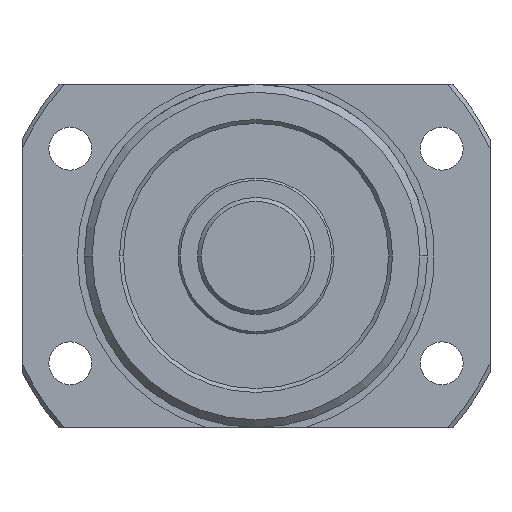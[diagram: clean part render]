
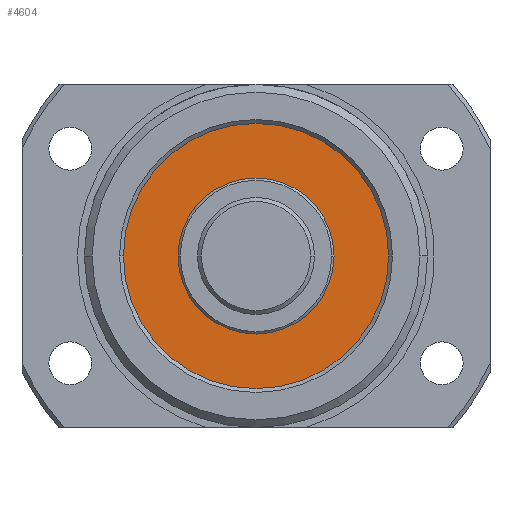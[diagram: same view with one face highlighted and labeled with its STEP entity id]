
A CAD part, left-side view. The second image highlights one B-rep face of the part: STEP entity #4604.
In plain terms, the highlighted planar face has unit normal (-1, 0, 0).
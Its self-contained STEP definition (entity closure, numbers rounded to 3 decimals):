
#139 = DIRECTION ( 'NONE',  ( 0., -1., 0. ) ) ;
#140 = DIRECTION ( 'NONE',  ( -1., 0., 0. ) ) ;
#146 = CARTESIAN_POINT ( 'NONE',  ( -40.5, 0., 0. ) ) ;
#555 = EDGE_CURVE ( 'NONE', #4042, #4039, #2964, .T. ) ;
#686 = EDGE_CURVE ( 'NONE', #4026, #5995, #5783, .T. ) ;
#1272 = CARTESIAN_POINT ( 'NONE',  ( -40.5, -17., 0. ) ) ;
#1291 = CARTESIAN_POINT ( 'NONE',  ( -40.5, 0., 10. ) ) ;
#1294 = CARTESIAN_POINT ( 'NONE',  ( -40.5, 0., -10. ) ) ;
#2138 = EDGE_CURVE ( 'NONE', #4039, #4042, #5813, .T. ) ;
#2199 = EDGE_CURVE ( 'NONE', #5995, #4026, #5903, .T. ) ;
#2332 = AXIS2_PLACEMENT_3D ( 'NONE', #146, #140, #139 ) ;
#2804 = ORIENTED_EDGE ( 'NONE', *, *, #555, .F. ) ;
#2805 = ORIENTED_EDGE ( 'NONE', *, *, #2138, .F. ) ;
#2806 = ORIENTED_EDGE ( 'NONE', *, *, #686, .T. ) ;
#2807 = ORIENTED_EDGE ( 'NONE', *, *, #2199, .T. ) ;
#2964 = CIRCLE ( 'NONE', #2332, 10. ) ;
#3364 = CARTESIAN_POINT ( 'NONE',  ( -40.5, 0., 0. ) ) ;
#3365 = DIRECTION ( 'NONE',  ( -1., 0., 0. ) ) ;
#3366 = DIRECTION ( 'NONE',  ( 0., -1., 0. ) ) ;
#3811 = CARTESIAN_POINT ( 'NONE',  ( -40.5, 0., 0. ) ) ;
#3812 = DIRECTION ( 'NONE',  ( -1., 0., 0. ) ) ;
#3813 = DIRECTION ( 'NONE',  ( 0., -1., 0. ) ) ;
#4026 = VERTEX_POINT ( 'NONE', #1272 ) ;
#4039 = VERTEX_POINT ( 'NONE', #1291 ) ;
#4042 = VERTEX_POINT ( 'NONE', #1294 ) ;
#4212 = DIRECTION ( 'NONE',  ( 0., -1., 0. ) ) ;
#4213 = DIRECTION ( 'NONE',  ( -1., 0., 0. ) ) ;
#4214 = CARTESIAN_POINT ( 'NONE',  ( -40.5, 0., 0. ) ) ;
#4386 = FACE_BOUND ( 'NONE', #5564, .T. ) ;
#4399 = FACE_OUTER_BOUND ( 'NONE', #5565, .T. ) ;
#4604 = ADVANCED_FACE ( 'NONE', ( #4386, #4399 ), #5336, .T. ) ;
#4670 = AXIS2_PLACEMENT_3D ( 'NONE', #5335, #5332, #5338 ) ;
#5027 = AXIS2_PLACEMENT_3D ( 'NONE', #4214, #4213, #4212 ) ;
#5048 = AXIS2_PLACEMENT_3D ( 'NONE', #3811, #3812, #3813 ) ;
#5075 = AXIS2_PLACEMENT_3D ( 'NONE', #3364, #3365, #3366 ) ;
#5332 = DIRECTION ( 'NONE',  ( -1., 0., 0. ) ) ;
#5335 = CARTESIAN_POINT ( 'NONE',  ( -40.5, 0., 0. ) ) ;
#5336 = PLANE ( 'NONE',  #4670 ) ;
#5338 = DIRECTION ( 'NONE',  ( 0., -1., 0. ) ) ;
#5457 = CARTESIAN_POINT ( 'NONE',  ( -40.5, 17., 0. ) ) ;
#5564 = EDGE_LOOP ( 'NONE', ( #2804, #2805 ) ) ;
#5565 = EDGE_LOOP ( 'NONE', ( #2806, #2807 ) ) ;
#5783 = CIRCLE ( 'NONE', #5027, 17. ) ;
#5813 = CIRCLE ( 'NONE', #5048, 10. ) ;
#5903 = CIRCLE ( 'NONE', #5075, 17. ) ;
#5995 = VERTEX_POINT ( 'NONE', #5457 ) ;
